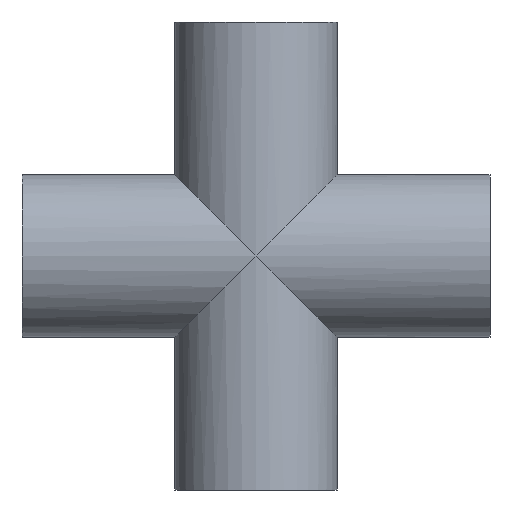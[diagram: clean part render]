
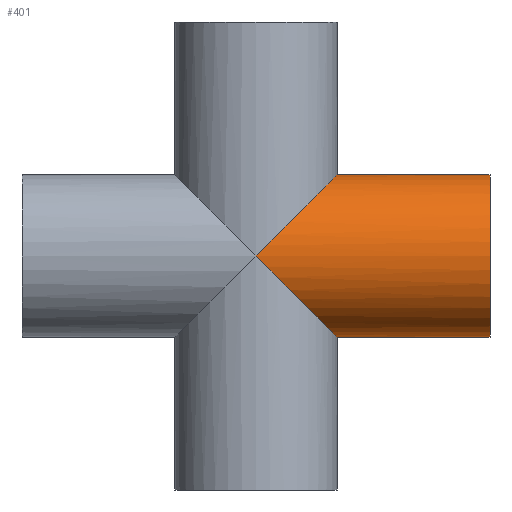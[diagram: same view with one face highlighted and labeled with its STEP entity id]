
A CAD part, front view. The second image highlights one B-rep face of the part: STEP entity #401.
In plain terms, the highlighted cylindrical face has radius 25.4 mm (diameter 50.8 mm), a partial arc.
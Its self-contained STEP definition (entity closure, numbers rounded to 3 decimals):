
#42 = EDGE_CURVE ( 'NONE', #630, #44, #297, .T. ) ;
#44 = VERTEX_POINT ( 'NONE', #369 ) ;
#83 = ORIENTED_EDGE ( 'NONE', *, *, #562, .T. ) ;
#91 = VECTOR ( 'NONE', #289, 1000. ) ;
#95 = AXIS2_PLACEMENT_3D ( 'NONE', #603, #566, #615 ) ;
#116 = CARTESIAN_POINT ( 'NONE',  ( 14.879, -25.4, -14.879 ) ) ;
#121 = ORIENTED_EDGE ( 'NONE', *, *, #42, .T. ) ;
#134 = ORIENTED_EDGE ( 'NONE', *, *, #372, .F. ) ;
#163 = CARTESIAN_POINT ( 'NONE',  ( 73.025, 0., -25.4 ) ) ;
#187 = CARTESIAN_POINT ( 'NONE',  ( 73.025, 0., 0. ) ) ;
#196 = DIRECTION ( 'NONE',  ( -1., 0., 0. ) ) ;
#223 = DIRECTION ( 'NONE',  ( 0., 0., -1. ) ) ;
#235 =( BOUNDED_CURVE ( )  B_SPLINE_CURVE ( 3, ( #634, #455, #116, #442 ),
 .UNSPECIFIED., .F., .T. ) 
 B_SPLINE_CURVE_WITH_KNOTS ( ( 4, 4 ),
 ( 0., 1.571 ),
 .UNSPECIFIED. ) 
 CURVE ( )  GEOMETRIC_REPRESENTATION_ITEM ( )  RATIONAL_B_SPLINE_CURVE ( ( 1., 0.805, 0.805, 1. ) ) 
 REPRESENTATION_ITEM ( '' )  );
#255 = CYLINDRICAL_SURFACE ( 'NONE', #95, 25.4 ) ;
#281 = CARTESIAN_POINT ( 'NONE',  ( 25.4, 0., 25.4 ) ) ;
#283 = CARTESIAN_POINT ( 'NONE',  ( -73.025, 0., -25.4 ) ) ;
#289 = DIRECTION ( 'NONE',  ( 1., 0., 0. ) ) ;
#297 =( BOUNDED_CURVE ( )  B_SPLINE_CURVE ( 3, ( #533, #591, #507, #420 ),
 .UNSPECIFIED., .F., .T. ) 
 B_SPLINE_CURVE_WITH_KNOTS ( ( 4, 4 ),
 ( 0., 1.571 ),
 .UNSPECIFIED. ) 
 CURVE ( )  GEOMETRIC_REPRESENTATION_ITEM ( )  RATIONAL_B_SPLINE_CURVE ( ( 1., 0.805, 0.805, 1. ) ) 
 REPRESENTATION_ITEM ( '' )  );
#304 = CARTESIAN_POINT ( 'NONE',  ( 25.4, 0., -25.4 ) ) ;
#307 = CARTESIAN_POINT ( 'NONE',  ( -73.025, 0., 25.4 ) ) ;
#337 = VECTOR ( 'NONE', #626, 1000. ) ;
#344 = VERTEX_POINT ( 'NONE', #387 ) ;
#350 = VERTEX_POINT ( 'NONE', #163 ) ;
#369 = CARTESIAN_POINT ( 'NONE',  ( 0., -25.4, 0. ) ) ;
#372 = EDGE_CURVE ( 'NONE', #610, #44, #235, .T. ) ;
#380 = ORIENTED_EDGE ( 'NONE', *, *, #601, .T. ) ;
#381 = LINE ( 'NONE', #307, #337 ) ;
#387 = CARTESIAN_POINT ( 'NONE',  ( 73.025, 0., 25.4 ) ) ;
#401 = ADVANCED_FACE ( 'NONE', ( #498 ), #255, .T. ) ;
#420 = CARTESIAN_POINT ( 'NONE',  ( 0., -25.4, 0. ) ) ;
#439 = AXIS2_PLACEMENT_3D ( 'NONE', #187, #196, #223 ) ;
#442 = CARTESIAN_POINT ( 'NONE',  ( 0., -25.4, 0. ) ) ;
#455 = CARTESIAN_POINT ( 'NONE',  ( 25.4, -14.879, -25.4 ) ) ;
#469 = LINE ( 'NONE', #283, #91 ) ;
#482 = EDGE_LOOP ( 'NONE', ( #555, #121, #134, #380, #83 ) ) ;
#498 = FACE_OUTER_BOUND ( 'NONE', #482, .T. ) ;
#507 = CARTESIAN_POINT ( 'NONE',  ( 14.879, -25.4, 14.879 ) ) ;
#533 = CARTESIAN_POINT ( 'NONE',  ( 25.4, 0., 25.4 ) ) ;
#555 = ORIENTED_EDGE ( 'NONE', *, *, #581, .F. ) ;
#562 = EDGE_CURVE ( 'NONE', #350, #344, #594, .T. ) ;
#566 = DIRECTION ( 'NONE',  ( 1., 0., 0. ) ) ;
#581 = EDGE_CURVE ( 'NONE', #630, #344, #381, .T. ) ;
#591 = CARTESIAN_POINT ( 'NONE',  ( 25.4, -14.879, 25.4 ) ) ;
#594 = CIRCLE ( 'NONE', #439, 25.4 ) ;
#601 = EDGE_CURVE ( 'NONE', #610, #350, #469, .T. ) ;
#603 = CARTESIAN_POINT ( 'NONE',  ( -73.025, 0., 0. ) ) ;
#610 = VERTEX_POINT ( 'NONE', #304 ) ;
#615 = DIRECTION ( 'NONE',  ( 0., 0., -1. ) ) ;
#626 = DIRECTION ( 'NONE',  ( 1., 0., 0. ) ) ;
#630 = VERTEX_POINT ( 'NONE', #281 ) ;
#634 = CARTESIAN_POINT ( 'NONE',  ( 25.4, 0., -25.4 ) ) ;
